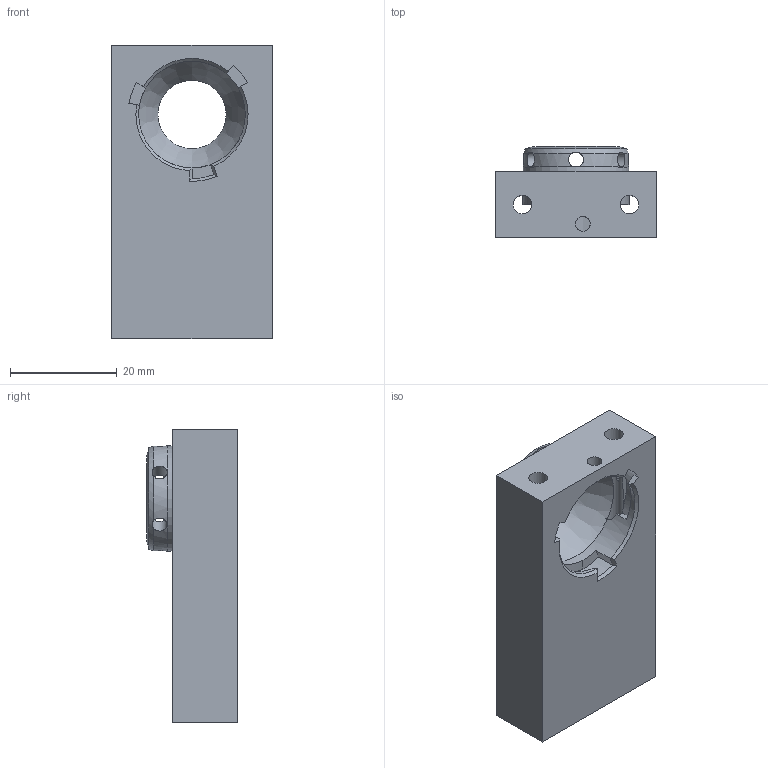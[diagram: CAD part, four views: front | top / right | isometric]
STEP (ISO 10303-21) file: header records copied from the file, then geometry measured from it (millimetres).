
FILE_DESCRIPTION(/* description */ (''),/* implementation_level */ '2;1');
FILE_NAME(/* name */ 'C:\Users\diederichbenedict\Dropbox\Dokumente\Promotion\PROJECTS\openUC2-CAD\INVENTOR\30_Linear_Stage_NEMA11_arm_bayonetmount_femalemale.stp',/* time_stamp */ '2023-09-08T14:06:27+02:00',/* author */ ('diederichbenedict'),/* organization */ (''),/* preprocessor_version */ 'ST-DEVELOPER v18.1',/* originating_system */ 'Autodesk Inventor 2022',/* authorisation */ '');
FILE_SCHEMA (('AUTOMOTIVE_DESIGN { 1 0 10303 214 3 1 1 }'));
Length unit declared in the file: millimetre
Products named in the file (1): 30_Linear_Stage_NEMA11_arm_bayonetmount_femalemale
Bounding box: 30 x 16.95 x 55 mm (x, y, z)
Volume: 16266.7 mm3; surface area: 7475.5 mm2
Topology: 1 solids, 1 shells, 59 faces, 189 edges, 122 vertices
Faces by surface type: cylinder 23, plane 21, cone 8, bspline 7
Full cylindrical faces by diameter (mm): 2.8 x7, 3.5 x2, 12.794 x1
Entity records: 2849 total; most frequent: CARTESIAN_POINT 1217, ORIENTED_EDGE 378, DIRECTION 270, EDGE_CURVE 189, VERTEX_POINT 122, AXIS2_PLACEMENT_3D 99, EDGE_LOOP 75, LINE 72
